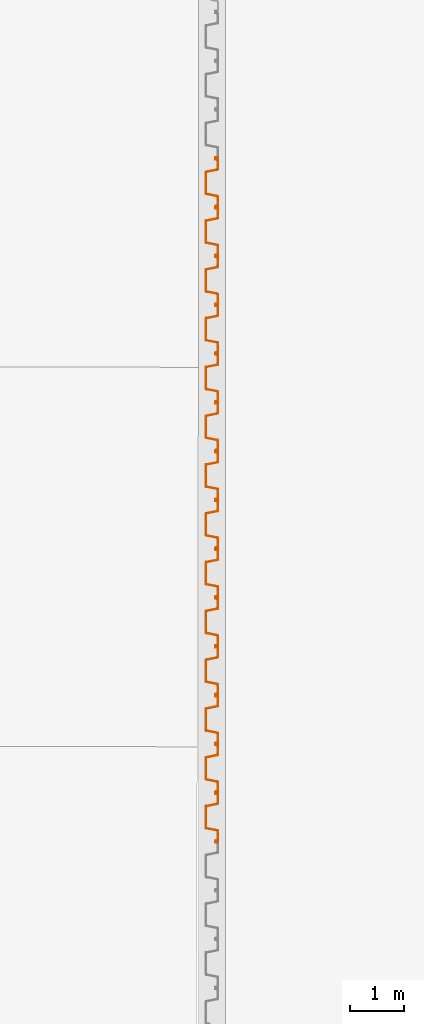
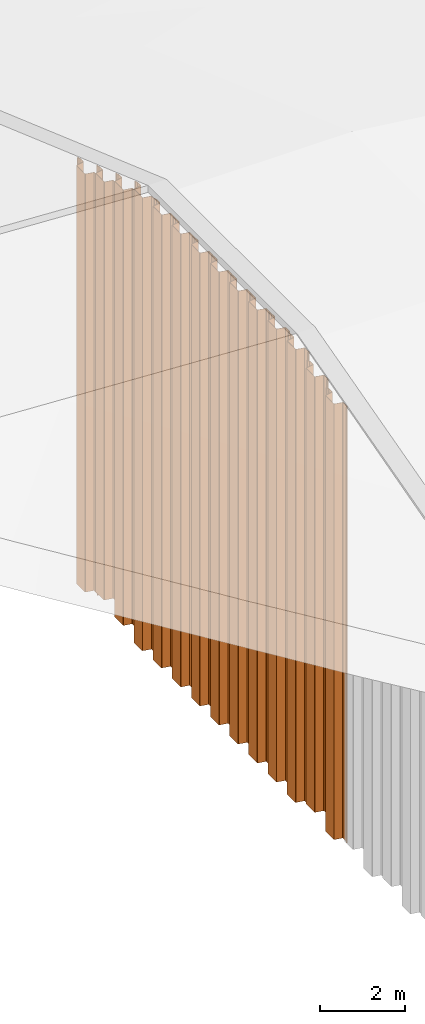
# One storey, part 10 of 32: 14 proxies.
"""IFC2X3 building model written with IfcOpenShell, lengths in millimetres."""

from ifc_helpers import new_model, entity, si_unit, converted_unit, derived_unit, direction, frame, frame_2d, origin, place, context, subcontext, project, spatial, polyline, circle_curve, parameter, trimmed, segment, composite_curve, outline, extrude, source, transform, mapped, type_object, type_shapes, element, save


model = new_model("IFC2X3")

# Units and contexts
model_context = context("Model", 3, precision=0.01, world=origin(), true_north=direction((6.12303176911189e-17, 1.0)))
body_context = subcontext(model_context, "Body", "Model", "MODEL_VIEW")
ifc_project = project(units=[si_unit("LENGTHUNIT", "METRE", prefix="MILLI"), si_unit("AREAUNIT", "SQUARE_METRE"), si_unit("VOLUMEUNIT", "CUBIC_METRE"), converted_unit("PLANEANGLEUNIT", "DEGREE", entity("IfcRatioMeasure", 0.0174532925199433), si_unit("PLANEANGLEUNIT", "RADIAN"), dimensions=[0, 0, 0, 0, 0, 0, 0]), si_unit("MASSUNIT", "GRAM", prefix="KILO"), derived_unit("MASSDENSITYUNIT", [(si_unit("MASSUNIT", "GRAM", prefix="KILO"), 1), (si_unit("LENGTHUNIT", "METRE"), -3)]), si_unit("TIMEUNIT", "SECOND"), si_unit("FREQUENCYUNIT", "HERTZ"), si_unit("THERMODYNAMICTEMPERATUREUNIT", "DEGREE_CELSIUS"), derived_unit("THERMALTRANSMITTANCEUNIT", [(si_unit("MASSUNIT", "GRAM", prefix="KILO"), 1), (si_unit("THERMODYNAMICTEMPERATUREUNIT", "KELVIN"), -1), (si_unit("TIMEUNIT", "SECOND"), -3)]), derived_unit("VOLUMETRICFLOWRATEUNIT", [(si_unit("LENGTHUNIT", "METRE"), 3), (si_unit("TIMEUNIT", "SECOND"), -1)]), si_unit("ELECTRICCURRENTUNIT", "AMPERE"), si_unit("ELECTRICVOLTAGEUNIT", "VOLT"), si_unit("POWERUNIT", "WATT"), si_unit("FORCEUNIT", "NEWTON", prefix="KILO"), si_unit("ILLUMINANCEUNIT", "LUX"), si_unit("LUMINOUSFLUXUNIT", "LUMEN"), si_unit("LUMINOUSINTENSITYUNIT", "CANDELA"), derived_unit("USERDEFINED", [(si_unit("MASSUNIT", "GRAM", prefix="KILO"), -1), (si_unit("LENGTHUNIT", "METRE"), -2), (si_unit("TIMEUNIT", "SECOND"), 3), (si_unit("LUMINOUSFLUXUNIT", "LUMEN"), 1)]), derived_unit("LINEARVELOCITYUNIT", [(si_unit("LENGTHUNIT", "METRE"), 1), (si_unit("TIMEUNIT", "SECOND"), -1)]), si_unit("PRESSUREUNIT", "PASCAL"), derived_unit("USERDEFINED", [(si_unit("LENGTHUNIT", "METRE"), -2), (si_unit("MASSUNIT", "GRAM", prefix="KILO"), 1), (si_unit("TIMEUNIT", "SECOND"), -2)])], contexts=[model_context])

# Site, building, storey
site_placement = place(None, origin())
site = spatial("IfcSite", under=ifc_project, at=site_placement, Name="Default", CompositionType="ELEMENT")
building_placement = place(site_placement, origin())
building = spatial("IfcBuilding", under=site, at=building_placement, CompositionType="ELEMENT")
storey_placement = place(building_placement, origin())
storey = spatial("IfcBuildingStorey", under=building, at=storey_placement, Name="矢板", CompositionType="ELEMENT", Elevation=0.0)

# Proxies
building_element_proxy_type_1 = type_object("IfcBuildingElementProxyType", Name="鋼矢板10H型", PredefinedType="NOTDEFINED")
shared_shape_1 = source(origin(), body_context, "Body", "SweptSolid", [
    extrude(outline(composite_curve([segment(trimmed(circle_curve(frame_2d((85.3662976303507, 306.644432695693), x_axis=(0.422618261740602, 0.906307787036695)), 13.885714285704), [parameter(24.9999999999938)], [parameter(90.0000000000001)], True, "PARAMETER"), True, "CONTINUOUS"), segment(polyline([(72.7815666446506, 312.512789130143), (9.8129512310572, 177.476157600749)]), True, "CONTINUOUS"), segment(trimmed(circle_curve(frame_2d((29.3891994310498, 168.347603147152), x_axis=(0.422618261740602, 0.906307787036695)), 21.6), [parameter(90.0000000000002)], [parameter(168.69006752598)], True, "PARAMETER"), True, "CONTINUOUS"), segment(polyline([(16.598697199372, 150.941769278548), (175.329723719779, 34.2998683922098)]), True, "CONTINUOUS"), segment(trimmed(circle_curve(frame_2d((168.93447260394, 25.596951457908), x_axis=(0.422618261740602, 0.906307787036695)), 10.7999999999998), [parameter(270.0)], [parameter(348.690067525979)], True, "PARAMETER"), False, "CONTINUOUS"), segment(polyline([(178.722596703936, 21.0326742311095), (18.2974003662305, -323.000269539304)]), True, "CONTINUOUS"), segment(trimmed(circle_curve(frame_2d((8.50927626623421, -318.435992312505), x_axis=(0.422618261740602, 0.906307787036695)), 10.8), [parameter(191.30993247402)], [parameter(269.999999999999)], True, "PARAMETER"), False, "CONTINUOUS"), segment(polyline([(5.95324328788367, -328.929166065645), (-185.429973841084, -282.310113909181)]), True, "CONTINUOUS"), segment(trimmed(circle_curve(frame_2d((-190.542039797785, -303.296461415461), x_axis=(0.422618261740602, 0.906307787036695)), 21.6000000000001), [parameter(11.3099324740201)], [parameter(90.0000000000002)], True, "PARAMETER"), True, "CONTINUOUS"), segment(polyline([(-210.118287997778, -294.167906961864), (-290.330886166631, -466.184378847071)]), True, "CONTINUOUS"), segment(trimmed(circle_curve(frame_2d((-270.754637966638, -475.312933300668), x_axis=(0.422618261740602, 0.906307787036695)), 21.6), [parameter(90.0000000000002)], [parameter(269.999999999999)], True, "PARAMETER"), True, "CONTINUOUS"), segment(polyline([(-251.178389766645, -484.441487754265), (-249.065298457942, -479.909948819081)]), True, "CONTINUOUS"), segment(polyline([(-249.065298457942, -479.909948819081), (-258.853422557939, -475.345671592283)]), True, "CONTINUOUS"), segment(polyline([(-258.853422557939, -475.345671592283), (-260.966513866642, -479.877210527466)]), True, "CONTINUOUS"), segment(trimmed(circle_curve(frame_2d((-270.754637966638, -475.312933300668), x_axis=(0.422618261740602, 0.906307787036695)), 10.8), [parameter(90.0000000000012)], [parameter(270.0)], True, "PARAMETER"), False, "CONTINUOUS"), segment(polyline([(-280.542762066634, -470.748656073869), (-200.330163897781, -298.732184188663)]), True, "CONTINUOUS"), segment(trimmed(circle_curve(frame_2d((-190.542039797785, -303.296461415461), x_axis=(0.422618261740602, 0.906307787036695)), 10.8), [parameter(11.3099324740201)], [parameter(89.9999999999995)], True, "PARAMETER"), False, "CONTINUOUS"), segment(polyline([(-187.986006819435, -292.803287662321), (3.39721030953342, -339.422339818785)]), True, "CONTINUOUS"), segment(trimmed(circle_curve(frame_2d((8.50927626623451, -318.435992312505), x_axis=(0.422618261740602, 0.906307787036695)), 21.6), [parameter(191.30993247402)], [parameter(270.0)], True, "PARAMETER"), True, "CONTINUOUS"), segment(polyline([(28.0855244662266, -327.564546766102), (188.510720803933, 16.4683970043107)]), True, "CONTINUOUS"), segment(trimmed(circle_curve(frame_2d((168.93447260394, 25.5969514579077), x_axis=(0.422618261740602, 0.906307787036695)), 21.6), [parameter(270.0)], [parameter(348.69006752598)], True, "PARAMETER"), True, "CONTINUOUS"), segment(polyline([(181.724974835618, 43.0027853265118), (22.9939483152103, 159.644686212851)]), True, "CONTINUOUS"), segment(trimmed(circle_curve(frame_2d((29.3891994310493, 168.347603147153), x_axis=(0.422618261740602, 0.906307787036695)), 10.7999999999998), [parameter(89.9999999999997)], [parameter(168.690067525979)], True, "PARAMETER"), False, "CONTINUOUS"), segment(polyline([(19.6010753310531, 172.911880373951), (82.5696907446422, 307.948511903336)]), True, "CONTINUOUS"), segment(trimmed(circle_curve(frame_2d((85.3662976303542, 306.64443269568), x_axis=(0.422618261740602, 0.906307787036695)), 3.08571428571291), [parameter(25.0000000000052)], [parameter(90.0000000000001)], True, "PARAMETER"), False, "CONTINUOUS"), segment(polyline([(85.3662976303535, 309.730146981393), (122.220231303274, 309.730146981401)]), True, "CONTINUOUS"), segment(trimmed(circle_curve(frame_2d((122.220231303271, 323.615861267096), x_axis=(0.422618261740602, 0.906307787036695)), 13.8857142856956), [parameter(205.000000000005)], [parameter(270.0)], True, "PARAMETER"), True, "CONTINUOUS"), segment(polyline([(134.804962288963, 317.747504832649), (141.079261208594, 331.202782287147)]), True, "CONTINUOUS"), segment(trimmed(circle_curve(frame_2d((121.503013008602, 340.331336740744), x_axis=(0.422618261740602, 0.906307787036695)), 21.6), [parameter(270.0)], [parameter(90.0000000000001)], True, "PARAMETER"), True, "CONTINUOUS"), segment(polyline([(101.926764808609, 349.459891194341), (99.8136734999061, 344.928352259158)]), True, "CONTINUOUS"), segment(polyline([(99.8136734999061, 344.928352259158), (109.601797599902, 340.364075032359)]), True, "CONTINUOUS"), segment(polyline([(109.601797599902, 340.364075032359), (111.714888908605, 344.895613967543)]), True, "CONTINUOUS"), segment(trimmed(circle_curve(frame_2d((121.503013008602, 340.331336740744), x_axis=(0.422618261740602, 0.906307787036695)), 10.8), [parameter(270.0)], [parameter(89.9999999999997)], True, "PARAMETER"), False, "CONTINUOUS"), segment(polyline([(131.291137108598, 335.767059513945), (125.01683818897, 322.311782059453)]), True, "CONTINUOUS"), segment(trimmed(circle_curve(frame_2d((122.220231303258, 323.615861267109), x_axis=(0.422618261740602, 0.906307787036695)), 3.08571428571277), [parameter(204.999999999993)], [parameter(270.0)], True, "PARAMETER"), False, "CONTINUOUS"), segment(polyline([(122.220231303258, 320.530146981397), (85.3662976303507, 320.530146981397)]), True, "CONTINUOUS")], self_intersect=False)), frame((95.205667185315, -48.8888888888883, -12000.0), z_axis=(0.0, 0.0, -1.0), x_axis=(0.4226182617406, 0.906307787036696, 0.0)), (0.0, 0.0, -1.0), 12000.0),
])
type_shapes(building_element_proxy_type_1, [shared_shape_1])
for number, where, z_axis, x_axis in (
    (1, (-128208.0, 11051.0, 13904.0), (0.0, 0.0, 1.0), (0.0, 1.0, 0.0)),
    (2, (-128208.0, 10151.0, 14223.0), (0.0, 0.0, 1.0), (0.0, 1.0, 0.0)),
):
    element("IfcBuildingElementProxy", number, at=place(storey_placement, frame(where, z_axis=z_axis, x_axis=x_axis)), inside=storey, type_object=building_element_proxy_type_1, Name="鋼矢板10H型:鋼矢板10H型", ObjectType="鋼矢板10H型:鋼矢板10H型", context=body_context, shape_type="MappedRepresentation", body=[
        mapped(shared_shape_1, transform((0.0, 0.0, 0.0), scale=1.0)),
    ])
building_element_proxy_type_2 = type_object("IfcBuildingElementProxyType", Name="鋼矢板10H型", PredefinedType="NOTDEFINED")
shared_shape_2 = source(origin(), body_context, "Body", "SweptSolid", [
    extrude(outline(composite_curve([segment(trimmed(circle_curve(frame_2d((85.3662976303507, 306.644432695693), x_axis=(0.422618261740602, 0.906307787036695)), 13.885714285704), [parameter(24.9999999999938)], [parameter(90.0000000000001)], True, "PARAMETER"), True, "CONTINUOUS"), segment(polyline([(72.7815666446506, 312.512789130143), (9.8129512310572, 177.476157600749)]), True, "CONTINUOUS"), segment(trimmed(circle_curve(frame_2d((29.3891994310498, 168.347603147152), x_axis=(0.422618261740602, 0.906307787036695)), 21.6), [parameter(90.0000000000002)], [parameter(168.69006752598)], True, "PARAMETER"), True, "CONTINUOUS"), segment(polyline([(16.598697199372, 150.941769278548), (175.329723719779, 34.2998683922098)]), True, "CONTINUOUS"), segment(trimmed(circle_curve(frame_2d((168.93447260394, 25.596951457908), x_axis=(0.422618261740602, 0.906307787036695)), 10.7999999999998), [parameter(270.0)], [parameter(348.690067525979)], True, "PARAMETER"), False, "CONTINUOUS"), segment(polyline([(178.722596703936, 21.0326742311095), (18.2974003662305, -323.000269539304)]), True, "CONTINUOUS"), segment(trimmed(circle_curve(frame_2d((8.50927626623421, -318.435992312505), x_axis=(0.422618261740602, 0.906307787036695)), 10.8), [parameter(191.30993247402)], [parameter(269.999999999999)], True, "PARAMETER"), False, "CONTINUOUS"), segment(polyline([(5.95324328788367, -328.929166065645), (-185.429973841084, -282.310113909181)]), True, "CONTINUOUS"), segment(trimmed(circle_curve(frame_2d((-190.542039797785, -303.296461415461), x_axis=(0.422618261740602, 0.906307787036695)), 21.6000000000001), [parameter(11.3099324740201)], [parameter(90.0000000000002)], True, "PARAMETER"), True, "CONTINUOUS"), segment(polyline([(-210.118287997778, -294.167906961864), (-290.330886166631, -466.184378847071)]), True, "CONTINUOUS"), segment(trimmed(circle_curve(frame_2d((-270.754637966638, -475.312933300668), x_axis=(0.422618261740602, 0.906307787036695)), 21.6), [parameter(90.0000000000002)], [parameter(269.999999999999)], True, "PARAMETER"), True, "CONTINUOUS"), segment(polyline([(-251.178389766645, -484.441487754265), (-249.065298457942, -479.909948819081)]), True, "CONTINUOUS"), segment(polyline([(-249.065298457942, -479.909948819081), (-258.853422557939, -475.345671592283)]), True, "CONTINUOUS"), segment(polyline([(-258.853422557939, -475.345671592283), (-260.966513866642, -479.877210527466)]), True, "CONTINUOUS"), segment(trimmed(circle_curve(frame_2d((-270.754637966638, -475.312933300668), x_axis=(0.422618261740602, 0.906307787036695)), 10.8), [parameter(90.0000000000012)], [parameter(270.0)], True, "PARAMETER"), False, "CONTINUOUS"), segment(polyline([(-280.542762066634, -470.748656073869), (-200.330163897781, -298.732184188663)]), True, "CONTINUOUS"), segment(trimmed(circle_curve(frame_2d((-190.542039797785, -303.296461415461), x_axis=(0.422618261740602, 0.906307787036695)), 10.8), [parameter(11.3099324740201)], [parameter(89.9999999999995)], True, "PARAMETER"), False, "CONTINUOUS"), segment(polyline([(-187.986006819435, -292.803287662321), (3.39721030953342, -339.422339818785)]), True, "CONTINUOUS"), segment(trimmed(circle_curve(frame_2d((8.50927626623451, -318.435992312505), x_axis=(0.422618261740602, 0.906307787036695)), 21.6), [parameter(191.30993247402)], [parameter(270.0)], True, "PARAMETER"), True, "CONTINUOUS"), segment(polyline([(28.0855244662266, -327.564546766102), (188.510720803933, 16.4683970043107)]), True, "CONTINUOUS"), segment(trimmed(circle_curve(frame_2d((168.93447260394, 25.5969514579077), x_axis=(0.422618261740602, 0.906307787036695)), 21.6), [parameter(270.0)], [parameter(348.69006752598)], True, "PARAMETER"), True, "CONTINUOUS"), segment(polyline([(181.724974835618, 43.0027853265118), (22.9939483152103, 159.644686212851)]), True, "CONTINUOUS"), segment(trimmed(circle_curve(frame_2d((29.3891994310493, 168.347603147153), x_axis=(0.422618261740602, 0.906307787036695)), 10.7999999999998), [parameter(89.9999999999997)], [parameter(168.690067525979)], True, "PARAMETER"), False, "CONTINUOUS"), segment(polyline([(19.6010753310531, 172.911880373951), (82.5696907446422, 307.948511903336)]), True, "CONTINUOUS"), segment(trimmed(circle_curve(frame_2d((85.3662976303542, 306.64443269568), x_axis=(0.422618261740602, 0.906307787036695)), 3.08571428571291), [parameter(25.0000000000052)], [parameter(90.0000000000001)], True, "PARAMETER"), False, "CONTINUOUS"), segment(polyline([(85.3662976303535, 309.730146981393), (122.220231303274, 309.730146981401)]), True, "CONTINUOUS"), segment(trimmed(circle_curve(frame_2d((122.220231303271, 323.615861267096), x_axis=(0.422618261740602, 0.906307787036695)), 13.8857142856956), [parameter(205.000000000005)], [parameter(270.0)], True, "PARAMETER"), True, "CONTINUOUS"), segment(polyline([(134.804962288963, 317.747504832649), (141.079261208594, 331.202782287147)]), True, "CONTINUOUS"), segment(trimmed(circle_curve(frame_2d((121.503013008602, 340.331336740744), x_axis=(0.422618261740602, 0.906307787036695)), 21.6), [parameter(270.0)], [parameter(90.0000000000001)], True, "PARAMETER"), True, "CONTINUOUS"), segment(polyline([(101.926764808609, 349.459891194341), (99.8136734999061, 344.928352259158)]), True, "CONTINUOUS"), segment(polyline([(99.8136734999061, 344.928352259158), (109.601797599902, 340.364075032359)]), True, "CONTINUOUS"), segment(polyline([(109.601797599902, 340.364075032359), (111.714888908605, 344.895613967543)]), True, "CONTINUOUS"), segment(trimmed(circle_curve(frame_2d((121.503013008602, 340.331336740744), x_axis=(0.422618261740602, 0.906307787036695)), 10.8), [parameter(270.0)], [parameter(89.9999999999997)], True, "PARAMETER"), False, "CONTINUOUS"), segment(polyline([(131.291137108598, 335.767059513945), (125.01683818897, 322.311782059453)]), True, "CONTINUOUS"), segment(trimmed(circle_curve(frame_2d((122.220231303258, 323.615861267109), x_axis=(0.422618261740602, 0.906307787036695)), 3.08571428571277), [parameter(204.999999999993)], [parameter(270.0)], True, "PARAMETER"), False, "CONTINUOUS"), segment(polyline([(122.220231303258, 320.530146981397), (85.3662976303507, 320.530146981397)]), True, "CONTINUOUS")], self_intersect=False)), frame((95.205667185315, -48.8888888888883, -12500.0), z_axis=(0.0, 0.0, -1.0), x_axis=(0.4226182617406, 0.906307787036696, 0.0)), (0.0, 0.0, -1.0), 12500.0),
])
type_shapes(building_element_proxy_type_2, [shared_shape_2])
for number, where, z_axis, x_axis in (
    (3, (-128208.0, 9251.0, 14541.0), (0.0, 0.0, 1.0), (0.0, 1.0, 0.0)),
    (4, (-128208.0, 251.0, 14636.0), (0.0, 0.0, 1.0), (0.0, 1.0, 0.0)),
    (5, (-128208.0, -649.0, 14399.0), (0.0, 0.0, 1.0), (0.0, 1.0, 0.0)),
):
    element("IfcBuildingElementProxy", number, at=place(storey_placement, frame(where, z_axis=z_axis, x_axis=x_axis)), inside=storey, type_object=building_element_proxy_type_2, Name="鋼矢板10H型:鋼矢板10H型", ObjectType="鋼矢板10H型:鋼矢板10H型", context=body_context, shape_type="MappedRepresentation", body=[
        mapped(shared_shape_2, transform((0.0, 0.0, 0.0), scale=1.0)),
    ])
building_element_proxy_type_3 = type_object("IfcBuildingElementProxyType", Name="鋼矢板10H型", PredefinedType="NOTDEFINED")
shared_shape_3 = source(origin(), body_context, "Body", "SweptSolid", [
    extrude(outline(composite_curve([segment(trimmed(circle_curve(frame_2d((85.3662976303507, 306.644432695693), x_axis=(0.422618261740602, 0.906307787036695)), 13.885714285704), [parameter(24.9999999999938)], [parameter(90.0000000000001)], True, "PARAMETER"), True, "CONTINUOUS"), segment(polyline([(72.7815666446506, 312.512789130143), (9.8129512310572, 177.476157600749)]), True, "CONTINUOUS"), segment(trimmed(circle_curve(frame_2d((29.3891994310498, 168.347603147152), x_axis=(0.422618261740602, 0.906307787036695)), 21.6), [parameter(90.0000000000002)], [parameter(168.69006752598)], True, "PARAMETER"), True, "CONTINUOUS"), segment(polyline([(16.598697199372, 150.941769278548), (175.329723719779, 34.2998683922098)]), True, "CONTINUOUS"), segment(trimmed(circle_curve(frame_2d((168.93447260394, 25.596951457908), x_axis=(0.422618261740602, 0.906307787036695)), 10.7999999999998), [parameter(270.0)], [parameter(348.690067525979)], True, "PARAMETER"), False, "CONTINUOUS"), segment(polyline([(178.722596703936, 21.0326742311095), (18.2974003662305, -323.000269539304)]), True, "CONTINUOUS"), segment(trimmed(circle_curve(frame_2d((8.50927626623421, -318.435992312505), x_axis=(0.422618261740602, 0.906307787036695)), 10.8), [parameter(191.30993247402)], [parameter(269.999999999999)], True, "PARAMETER"), False, "CONTINUOUS"), segment(polyline([(5.95324328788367, -328.929166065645), (-185.429973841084, -282.310113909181)]), True, "CONTINUOUS"), segment(trimmed(circle_curve(frame_2d((-190.542039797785, -303.296461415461), x_axis=(0.422618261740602, 0.906307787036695)), 21.6000000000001), [parameter(11.3099324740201)], [parameter(90.0000000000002)], True, "PARAMETER"), True, "CONTINUOUS"), segment(polyline([(-210.118287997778, -294.167906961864), (-290.330886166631, -466.184378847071)]), True, "CONTINUOUS"), segment(trimmed(circle_curve(frame_2d((-270.754637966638, -475.312933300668), x_axis=(0.422618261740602, 0.906307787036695)), 21.6), [parameter(90.0000000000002)], [parameter(269.999999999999)], True, "PARAMETER"), True, "CONTINUOUS"), segment(polyline([(-251.178389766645, -484.441487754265), (-249.065298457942, -479.909948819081)]), True, "CONTINUOUS"), segment(polyline([(-249.065298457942, -479.909948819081), (-258.853422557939, -475.345671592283)]), True, "CONTINUOUS"), segment(polyline([(-258.853422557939, -475.345671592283), (-260.966513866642, -479.877210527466)]), True, "CONTINUOUS"), segment(trimmed(circle_curve(frame_2d((-270.754637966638, -475.312933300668), x_axis=(0.422618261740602, 0.906307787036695)), 10.8), [parameter(90.0000000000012)], [parameter(270.0)], True, "PARAMETER"), False, "CONTINUOUS"), segment(polyline([(-280.542762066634, -470.748656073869), (-200.330163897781, -298.732184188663)]), True, "CONTINUOUS"), segment(trimmed(circle_curve(frame_2d((-190.542039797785, -303.296461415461), x_axis=(0.422618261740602, 0.906307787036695)), 10.8), [parameter(11.3099324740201)], [parameter(89.9999999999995)], True, "PARAMETER"), False, "CONTINUOUS"), segment(polyline([(-187.986006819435, -292.803287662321), (3.39721030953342, -339.422339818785)]), True, "CONTINUOUS"), segment(trimmed(circle_curve(frame_2d((8.50927626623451, -318.435992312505), x_axis=(0.422618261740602, 0.906307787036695)), 21.6), [parameter(191.30993247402)], [parameter(270.0)], True, "PARAMETER"), True, "CONTINUOUS"), segment(polyline([(28.0855244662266, -327.564546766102), (188.510720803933, 16.4683970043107)]), True, "CONTINUOUS"), segment(trimmed(circle_curve(frame_2d((168.93447260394, 25.5969514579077), x_axis=(0.422618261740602, 0.906307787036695)), 21.6), [parameter(270.0)], [parameter(348.69006752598)], True, "PARAMETER"), True, "CONTINUOUS"), segment(polyline([(181.724974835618, 43.0027853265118), (22.9939483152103, 159.644686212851)]), True, "CONTINUOUS"), segment(trimmed(circle_curve(frame_2d((29.3891994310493, 168.347603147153), x_axis=(0.422618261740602, 0.906307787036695)), 10.7999999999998), [parameter(89.9999999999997)], [parameter(168.690067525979)], True, "PARAMETER"), False, "CONTINUOUS"), segment(polyline([(19.6010753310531, 172.911880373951), (82.5696907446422, 307.948511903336)]), True, "CONTINUOUS"), segment(trimmed(circle_curve(frame_2d((85.3662976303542, 306.64443269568), x_axis=(0.422618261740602, 0.906307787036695)), 3.08571428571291), [parameter(25.0000000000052)], [parameter(90.0000000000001)], True, "PARAMETER"), False, "CONTINUOUS"), segment(polyline([(85.3662976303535, 309.730146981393), (122.220231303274, 309.730146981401)]), True, "CONTINUOUS"), segment(trimmed(circle_curve(frame_2d((122.220231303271, 323.615861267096), x_axis=(0.422618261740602, 0.906307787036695)), 13.8857142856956), [parameter(205.000000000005)], [parameter(270.0)], True, "PARAMETER"), True, "CONTINUOUS"), segment(polyline([(134.804962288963, 317.747504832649), (141.079261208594, 331.202782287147)]), True, "CONTINUOUS"), segment(trimmed(circle_curve(frame_2d((121.503013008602, 340.331336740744), x_axis=(0.422618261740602, 0.906307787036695)), 21.6), [parameter(270.0)], [parameter(90.0000000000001)], True, "PARAMETER"), True, "CONTINUOUS"), segment(polyline([(101.926764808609, 349.459891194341), (99.8136734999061, 344.928352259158)]), True, "CONTINUOUS"), segment(polyline([(99.8136734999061, 344.928352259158), (109.601797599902, 340.364075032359)]), True, "CONTINUOUS"), segment(polyline([(109.601797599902, 340.364075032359), (111.714888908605, 344.895613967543)]), True, "CONTINUOUS"), segment(trimmed(circle_curve(frame_2d((121.503013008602, 340.331336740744), x_axis=(0.422618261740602, 0.906307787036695)), 10.8), [parameter(270.0)], [parameter(89.9999999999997)], True, "PARAMETER"), False, "CONTINUOUS"), segment(polyline([(131.291137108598, 335.767059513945), (125.01683818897, 322.311782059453)]), True, "CONTINUOUS"), segment(trimmed(circle_curve(frame_2d((122.220231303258, 323.615861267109), x_axis=(0.422618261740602, 0.906307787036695)), 3.08571428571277), [parameter(204.999999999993)], [parameter(270.0)], True, "PARAMETER"), False, "CONTINUOUS"), segment(polyline([(122.220231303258, 320.530146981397), (85.3662976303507, 320.530146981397)]), True, "CONTINUOUS")], self_intersect=False)), frame((95.205667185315, -48.8888888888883, -13000.0), z_axis=(0.0, 0.0, -1.0), x_axis=(0.4226182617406, 0.906307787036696, 0.0)), (0.0, 0.0, -1.0), 13000.0),
])
type_shapes(building_element_proxy_type_3, [shared_shape_3])
for number, where, z_axis, x_axis in (
    (6, (-128208.0, 8351.0, 14860.0), (0.0, 0.0, 1.0), (0.0, 1.0, 0.0)),
    (7, (-128208.0, 7451.0, 14913.0), (0.0, 0.0, 1.0), (0.0, 1.0, 0.0)),
    (8, (-128208.0, 6551.0, 14913.0), (0.0, 0.0, 1.0), (0.0, 1.0, 0.0)),
    (9, (-128208.0, 5651.0, 14913.0), (0.0, 0.0, 1.0), (0.0, 1.0, 0.0)),
    (10, (-128208.0, 4751.0, 14913.0), (0.0, 0.0, 1.0), (0.0, 1.0, 0.0)),
    (11, (-128208.0, 3851.0, 14913.0), (0.0, 0.0, 1.0), (0.0, 1.0, 0.0)),
    (12, (-128208.0, 2951.0, 14913.0), (0.0, 0.0, 1.0), (0.0, 1.0, 0.0)),
    (13, (-128208.0, 2051.0, 14913.0), (0.0, 0.0, 1.0), (0.0, 1.0, 0.0)),
    (14, (-128208.0, 1151.0, 14873.0), (0.0, 0.0, 1.0), (0.0, 1.0, 0.0)),
):
    element("IfcBuildingElementProxy", number, at=place(storey_placement, frame(where, z_axis=z_axis, x_axis=x_axis)), inside=storey, type_object=building_element_proxy_type_3, Name="鋼矢板10H型:鋼矢板10H型", ObjectType="鋼矢板10H型:鋼矢板10H型", context=body_context, shape_type="MappedRepresentation", body=[
        mapped(shared_shape_3, transform((0.0, 0.0, 0.0), scale=1.0)),
    ])

save(model, "model.ifc")
